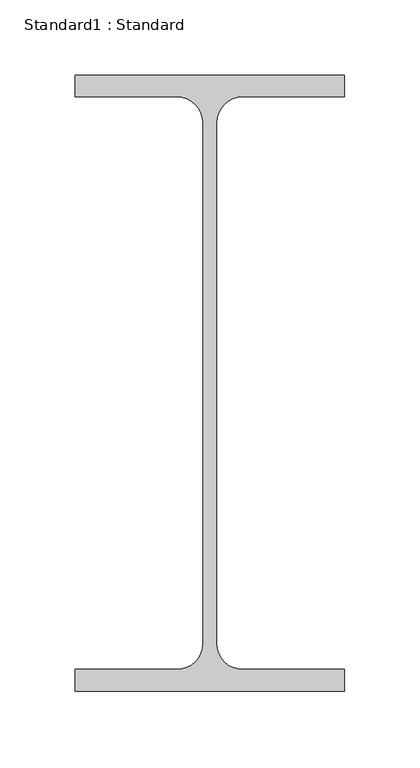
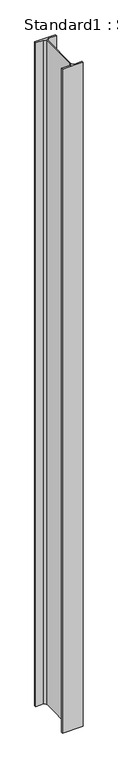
"""IFC4 building model written with IfcOpenShell, lengths in millimetres: column geometry, Standard1 : Standard."""

from ifc_helpers import new_model, si_unit, point, frame_2d, origin, origin_with_axes, place, context, project, spatial, polyline, circle_curve, trimmed, segment, composite_curve, outline, extrude, source, transform, mapped, element, save


def standard1_standard_8d04f7a0(model_context):
    return source(origin(), model_context, "Body", "SweptSolid", [
        extrude(outline(composite_curve([segment(polyline([(89.5, 204.5), (89.5, 190.1), (21.78, 190.1)]), True, "CONTINUOUS"), segment(trimmed(circle_curve(frame_2d((21.78, 172.7)), 17.4), [point((21.78, 190.1))], [point((4.38, 172.7))], True, "CARTESIAN"), True, "CONTINUOUS"), segment(polyline([(4.38, 172.7), (4.38, -172.7)]), True, "CONTINUOUS"), segment(trimmed(circle_curve(frame_2d((21.78, -172.7)), 17.4), [point((4.38, -172.7))], [point((21.78, -190.1))], True, "CARTESIAN"), True, "CONTINUOUS"), segment(polyline([(21.78, -190.1), (89.5, -190.1), (89.5, -204.5), (-89.5, -204.5), (-89.5, -190.1), (-21.78, -190.1)]), True, "CONTINUOUS"), segment(trimmed(circle_curve(frame_2d((-21.78, -172.7)), 17.4), [point((-21.78, -190.1))], [point((-4.38, -172.7))], True, "CARTESIAN"), True, "CONTINUOUS"), segment(polyline([(-4.38, -172.7), (-4.38, 172.7)]), True, "CONTINUOUS"), segment(trimmed(circle_curve(frame_2d((-21.78, 172.7)), 17.4), [point((-4.38, 172.7))], [point((-21.78, 190.1))], True, "CARTESIAN"), True, "CONTINUOUS"), segment(polyline([(-21.78, 190.1), (-89.5, 190.1), (-89.5, 204.5), (89.5, 204.5)]), True, "CONTINUOUS")], self_intersect=False)), origin_with_axes(), (0.0, 0.0, 1.0), 6000.0),
    ])


if __name__ == "__main__":
    model = new_model("IFC4")
    model_context = context("Model", 3, world=origin())
    ifc_project = project(units=[si_unit("LENGTHUNIT", "METRE", prefix="MILLI")], contexts=[model_context])
    site = spatial("IfcSite", under=ifc_project)
    building = spatial("IfcBuilding", under=site)
    placement = place(None, origin())
    standard1_standard_shape = standard1_standard_8d04f7a0(model_context)
    element("IfcColumn", 1, ObjectType="Standard1 : Standard", at=placement, inside=building, context=model_context, shape_type="MappedRepresentation", body=[
        mapped(standard1_standard_shape, transform((0.0, 0.0, 0.0), x_axis=(1.0, 0.0, 0.0), y_axis=(0.0, 1.0, 0.0), z_axis=(0.0, 0.0, 1.0))),
    ])
    save(model, "model.ifc")
